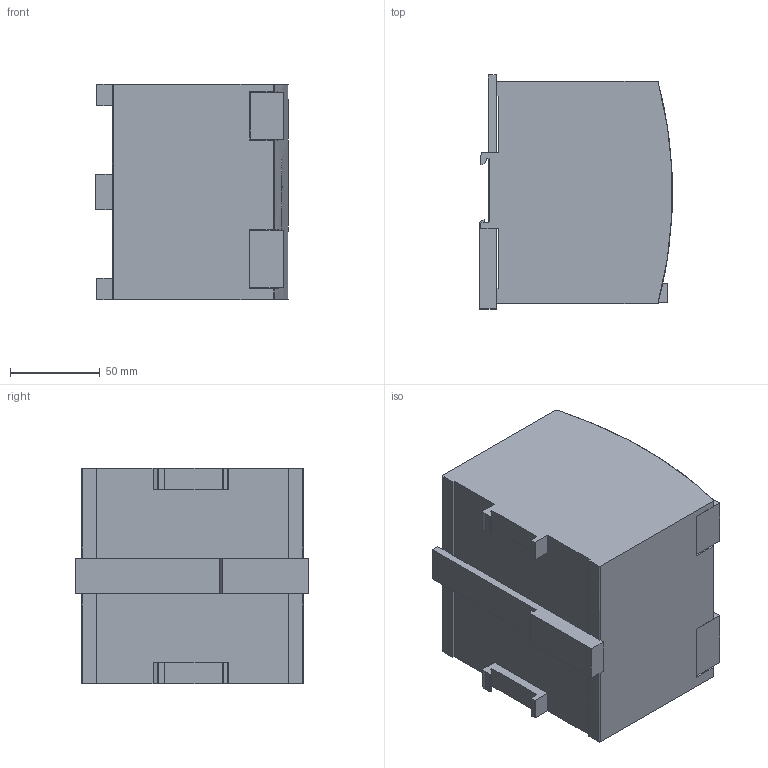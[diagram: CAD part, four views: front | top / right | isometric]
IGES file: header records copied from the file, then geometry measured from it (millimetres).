
Start section: SolidWorks IGES FILE using analytic representation for surfaces
Global section: file name: C:\Vertrieb\Gesendet 20_11_2003\SL10_101\SL10_101.IGS; native system: SolidWorks 2004 by SolidWorks Corporation; preprocessor: Version 5.3; author: heinrij; date: 031120.153206; units: millimetre
Bounding box: 107.63 x 130.5 x 120 mm (x, y, z)
Surface area: 88558 mm2 (no closed solid volume)
Topology: 0 solids, 0 shells, 666 faces, 5973 edges, 5973 vertices
Faces by surface type: bspline 624, revolution 42
